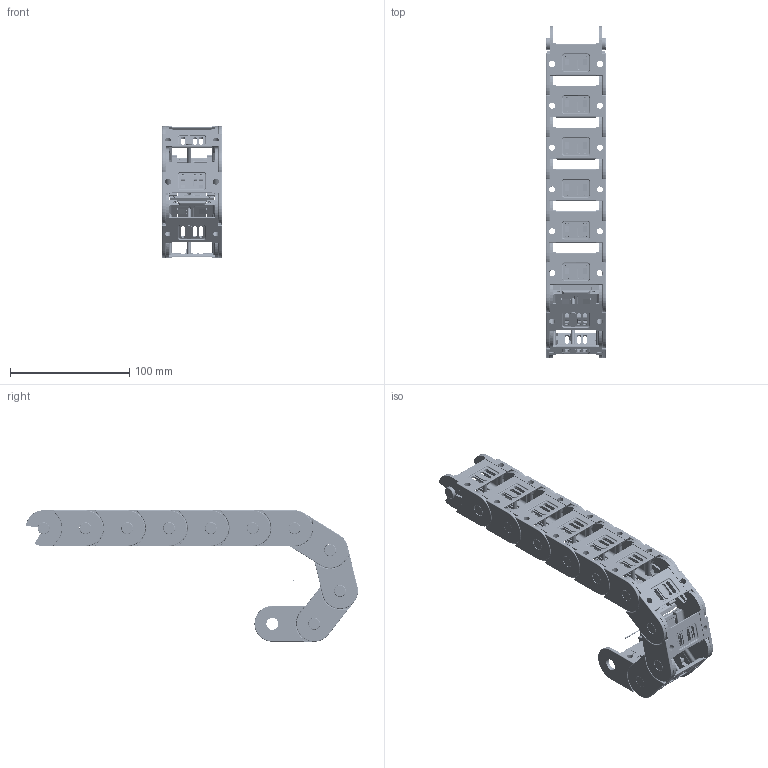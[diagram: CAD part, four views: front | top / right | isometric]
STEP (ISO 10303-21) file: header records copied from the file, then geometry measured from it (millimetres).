
FILE_DESCRIPTION((''),'2;1');
FILE_NAME('\\192.168.0.88\samba\technik\3D\STEP\KOLIBRI\KOLIBRI_30_050_0\KOLIBRI 30_050_0_R40.stp','2013-01-28T11:06:33',('Uebbing'),(''),'Autodesk Inventor 10','Autodesk Inventor 10','');
FILE_SCHEMA(('AUTOMOTIVE_DESIGN { 1 0 10303 214 1 1 1 1 }'));
Length unit declared in the file: millimetre
Products named in the file (6): KOLIBRI 30_050_0_PARAMETRISCH; Achse; Kol_30_050_0_Glied; Kol 30_050_0 Lasche; Kol 30_050_0 Klappsteg; PZ 30 Stecksteg
Assembly tree (14 placements, depth 3):
  KOLIBRI 30_050_0_PARAMETRISCH
    Achse
    Kol_30_050_0_Glied  x10
      Kol 30_050_0 Lasche
      Kol 30_050_0 Klappsteg
      PZ 30 Stecksteg
Bounding box: 50 x 277.78 x 110 mm (x, y, z)
Volume: 155804.8 mm3; surface area: 151035 mm2
Topology: 31 solids, 31 shells, 9573 faces, 26154 edges, 17133 vertices
Faces by surface type: plane 4922, bspline 2070, cylinder 1991, torus 450, cone 80, sphere 60
Full cylindrical faces by diameter (mm): 1 x1, 1.166 x10, 2.048 x10, 2.8 x80, 5.1 x20, 10 x20, 10.1 x20
Entity records: 33080 total; most frequent: CARTESIAN_POINT 9692, ORIENTED_EDGE 5150, DIRECTION 4252, EDGE_CURVE 2575, VERTEX_POINT 1701, VECTOR 1612, LINE 1612, AXIS2_PLACEMENT_3D 1320
